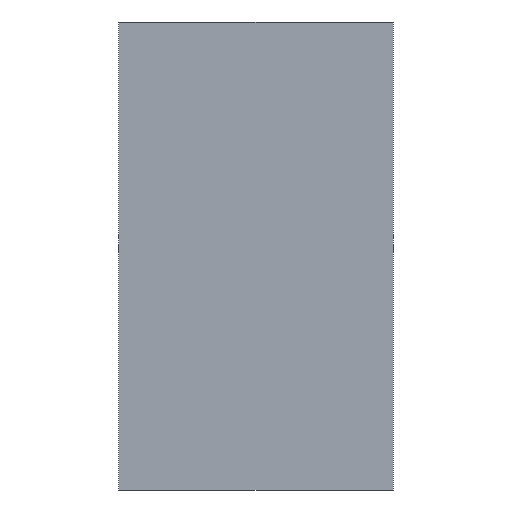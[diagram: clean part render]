
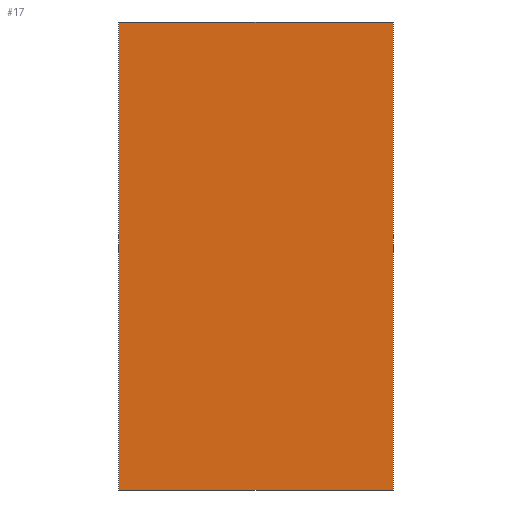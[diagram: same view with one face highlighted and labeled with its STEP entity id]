
A CAD part, left-side view. The second image highlights one B-rep face of the part: STEP entity #17.
In plain terms, the highlighted planar face has unit normal (-1, 0, 0).
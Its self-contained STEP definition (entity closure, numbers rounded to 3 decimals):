
#17 = ADVANCED_FACE('',(#18),#32,.F.);
#18 = FACE_BOUND('',#19,.F.);
#19 = EDGE_LOOP('',(#20,#55,#83,#111));
#20 = ORIENTED_EDGE('',*,*,#21,.F.);
#21 = EDGE_CURVE('',#22,#24,#26,.T.);
#22 = VERTEX_POINT('',#23);
#23 = CARTESIAN_POINT('',(51.,-23.5,-280.));
#24 = VERTEX_POINT('',#25);
#25 = CARTESIAN_POINT('',(51.,-23.5,-200.));
#26 = SURFACE_CURVE('',#27,(#31,#43),.PCURVE_S1.);
#27 = LINE('',#28,#29);
#28 = CARTESIAN_POINT('',(51.,-23.5,-280.));
#29 = VECTOR('',#30,1.);
#30 = DIRECTION('',(0.,0.,1.));
#31 = PCURVE('',#32,#37);
#32 = PLANE('',#33);
#33 = AXIS2_PLACEMENT_3D('',#34,#35,#36);
#34 = CARTESIAN_POINT('',(51.,-23.5,-280.));
#35 = DIRECTION('',(1.,0.,0.));
#36 = DIRECTION('',(0.,0.,1.));
#37 = DEFINITIONAL_REPRESENTATION('',(#38),#42);
#38 = LINE('',#39,#40);
#39 = CARTESIAN_POINT('',(0.,0.));
#40 = VECTOR('',#41,1.);
#41 = DIRECTION('',(1.,0.));
#42 = ( GEOMETRIC_REPRESENTATION_CONTEXT(2) 
PARAMETRIC_REPRESENTATION_CONTEXT() REPRESENTATION_CONTEXT('2D SPACE',''
  ) );
#43 = PCURVE('',#44,#49);
#44 = PLANE('',#45);
#45 = AXIS2_PLACEMENT_3D('',#46,#47,#48);
#46 = CARTESIAN_POINT('',(51.,-23.5,-280.));
#47 = DIRECTION('',(0.,1.,0.));
#48 = DIRECTION('',(0.,0.,1.));
#49 = DEFINITIONAL_REPRESENTATION('',(#50),#54);
#50 = LINE('',#51,#52);
#51 = CARTESIAN_POINT('',(0.,0.));
#52 = VECTOR('',#53,1.);
#53 = DIRECTION('',(1.,0.));
#54 = ( GEOMETRIC_REPRESENTATION_CONTEXT(2) 
PARAMETRIC_REPRESENTATION_CONTEXT() REPRESENTATION_CONTEXT('2D SPACE',''
  ) );
#55 = ORIENTED_EDGE('',*,*,#56,.T.);
#56 = EDGE_CURVE('',#22,#57,#59,.T.);
#57 = VERTEX_POINT('',#58);
#58 = CARTESIAN_POINT('',(51.,23.5,-280.));
#59 = SURFACE_CURVE('',#60,(#64,#71),.PCURVE_S1.);
#60 = LINE('',#61,#62);
#61 = CARTESIAN_POINT('',(51.,-23.5,-280.));
#62 = VECTOR('',#63,1.);
#63 = DIRECTION('',(0.,1.,0.));
#64 = PCURVE('',#32,#65);
#65 = DEFINITIONAL_REPRESENTATION('',(#66),#70);
#66 = LINE('',#67,#68);
#67 = CARTESIAN_POINT('',(0.,0.));
#68 = VECTOR('',#69,1.);
#69 = DIRECTION('',(0.,-1.));
#70 = ( GEOMETRIC_REPRESENTATION_CONTEXT(2) 
PARAMETRIC_REPRESENTATION_CONTEXT() REPRESENTATION_CONTEXT('2D SPACE',''
  ) );
#71 = PCURVE('',#72,#77);
#72 = PLANE('',#73);
#73 = AXIS2_PLACEMENT_3D('',#74,#75,#76);
#74 = CARTESIAN_POINT('',(51.,-23.5,-280.));
#75 = DIRECTION('',(0.,0.,1.));
#76 = DIRECTION('',(1.,0.,0.));
#77 = DEFINITIONAL_REPRESENTATION('',(#78),#82);
#78 = LINE('',#79,#80);
#79 = CARTESIAN_POINT('',(0.,0.));
#80 = VECTOR('',#81,1.);
#81 = DIRECTION('',(0.,1.));
#82 = ( GEOMETRIC_REPRESENTATION_CONTEXT(2) 
PARAMETRIC_REPRESENTATION_CONTEXT() REPRESENTATION_CONTEXT('2D SPACE',''
  ) );
#83 = ORIENTED_EDGE('',*,*,#84,.T.);
#84 = EDGE_CURVE('',#57,#85,#87,.T.);
#85 = VERTEX_POINT('',#86);
#86 = CARTESIAN_POINT('',(51.,23.5,-200.));
#87 = SURFACE_CURVE('',#88,(#92,#99),.PCURVE_S1.);
#88 = LINE('',#89,#90);
#89 = CARTESIAN_POINT('',(51.,23.5,-280.));
#90 = VECTOR('',#91,1.);
#91 = DIRECTION('',(0.,0.,1.));
#92 = PCURVE('',#32,#93);
#93 = DEFINITIONAL_REPRESENTATION('',(#94),#98);
#94 = LINE('',#95,#96);
#95 = CARTESIAN_POINT('',(0.,-47.));
#96 = VECTOR('',#97,1.);
#97 = DIRECTION('',(1.,0.));
#98 = ( GEOMETRIC_REPRESENTATION_CONTEXT(2) 
PARAMETRIC_REPRESENTATION_CONTEXT() REPRESENTATION_CONTEXT('2D SPACE',''
  ) );
#99 = PCURVE('',#100,#105);
#100 = PLANE('',#101);
#101 = AXIS2_PLACEMENT_3D('',#102,#103,#104);
#102 = CARTESIAN_POINT('',(51.,23.5,-280.));
#103 = DIRECTION('',(0.,1.,0.));
#104 = DIRECTION('',(0.,0.,1.));
#105 = DEFINITIONAL_REPRESENTATION('',(#106),#110);
#106 = LINE('',#107,#108);
#107 = CARTESIAN_POINT('',(0.,0.));
#108 = VECTOR('',#109,1.);
#109 = DIRECTION('',(1.,0.));
#110 = ( GEOMETRIC_REPRESENTATION_CONTEXT(2) 
PARAMETRIC_REPRESENTATION_CONTEXT() REPRESENTATION_CONTEXT('2D SPACE',''
  ) );
#111 = ORIENTED_EDGE('',*,*,#112,.F.);
#112 = EDGE_CURVE('',#24,#85,#113,.T.);
#113 = SURFACE_CURVE('',#114,(#118,#125),.PCURVE_S1.);
#114 = LINE('',#115,#116);
#115 = CARTESIAN_POINT('',(51.,-23.5,-200.));
#116 = VECTOR('',#117,1.);
#117 = DIRECTION('',(0.,1.,0.));
#118 = PCURVE('',#32,#119);
#119 = DEFINITIONAL_REPRESENTATION('',(#120),#124);
#120 = LINE('',#121,#122);
#121 = CARTESIAN_POINT('',(80.,0.));
#122 = VECTOR('',#123,1.);
#123 = DIRECTION('',(0.,-1.));
#124 = ( GEOMETRIC_REPRESENTATION_CONTEXT(2) 
PARAMETRIC_REPRESENTATION_CONTEXT() REPRESENTATION_CONTEXT('2D SPACE',''
  ) );
#125 = PCURVE('',#126,#131);
#126 = PLANE('',#127);
#127 = AXIS2_PLACEMENT_3D('',#128,#129,#130);
#128 = CARTESIAN_POINT('',(51.,-23.5,-200.));
#129 = DIRECTION('',(0.,0.,1.));
#130 = DIRECTION('',(1.,0.,0.));
#131 = DEFINITIONAL_REPRESENTATION('',(#132),#136);
#132 = LINE('',#133,#134);
#133 = CARTESIAN_POINT('',(0.,0.));
#134 = VECTOR('',#135,1.);
#135 = DIRECTION('',(0.,1.));
#136 = ( GEOMETRIC_REPRESENTATION_CONTEXT(2) 
PARAMETRIC_REPRESENTATION_CONTEXT() REPRESENTATION_CONTEXT('2D SPACE',''
  ) );
